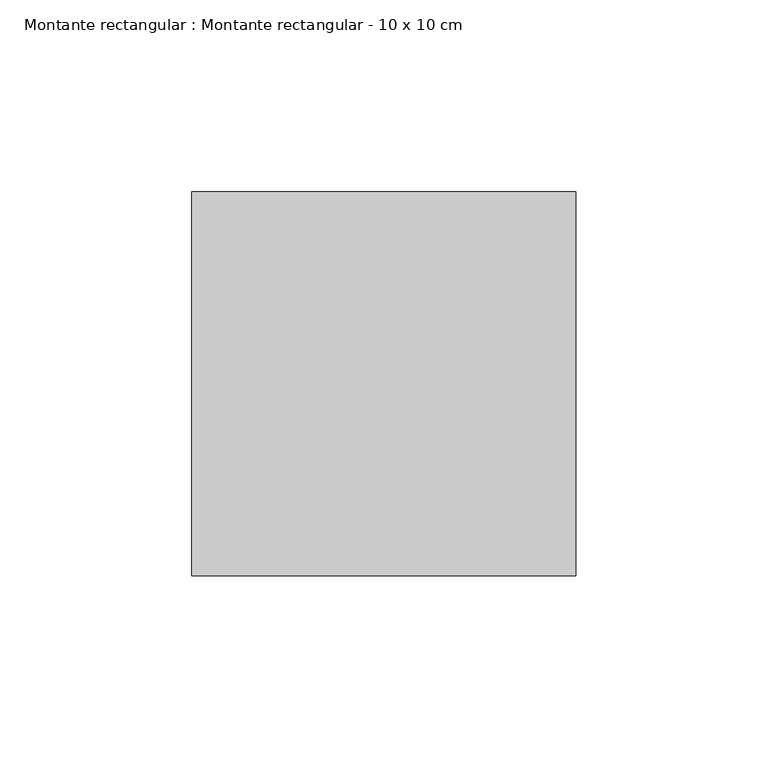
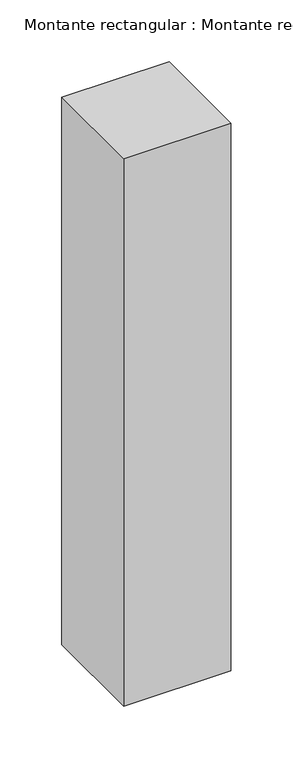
"""IFC4 building model written with IfcOpenShell, lengths in millimetres: member geometry, Montante rectangular : Montante rectangular - 10 x 10 cm."""

from ifc_helpers import new_model, si_unit, frame, origin, place, context, project, spatial, polyline, outline, extrude, source, transform, mapped, element, save


def montante_rectangular_montante_rectangular_10_x_10_cm_8bd246b6(model_context):
    return source(origin(), model_context, "Body", "SweptSolid", [
        extrude(outline(polyline([(0.0, -50.0), (-100.0, -50.0), (-100.0, 50.0), (0.0, 50.0), (0.0, -50.0)])), frame((0.0, 0.0, -540.0), z_axis=(0.0, 0.0, 1.0), x_axis=(1.0, 0.0, 0.0)), (0.0, 0.0, 1.0), 540.0),
    ])


if __name__ == "__main__":
    model = new_model("IFC4")
    model_context = context("Model", 3, world=origin())
    ifc_project = project(units=[si_unit("LENGTHUNIT", "METRE", prefix="MILLI")], contexts=[model_context])
    site = spatial("IfcSite", under=ifc_project)
    building = spatial("IfcBuilding", under=site)
    placement = place(None, origin())
    montante_rectangular_montante_rectangular_10_x_10_cm_shape = montante_rectangular_montante_rectangular_10_x_10_cm_8bd246b6(model_context)
    element("IfcMember", 1, ObjectType="Montante rectangular : Montante rectangular - 10 x 10 cm", at=placement, inside=building, context=model_context, shape_type="MappedRepresentation", body=[
        mapped(montante_rectangular_montante_rectangular_10_x_10_cm_shape, transform((0.0, 0.0, 0.0), x_axis=(1.0, 0.0, 0.0), y_axis=(0.0, 1.0, 0.0), z_axis=(0.0, 0.0, 1.0))),
    ])
    save(model, "model.ifc")
